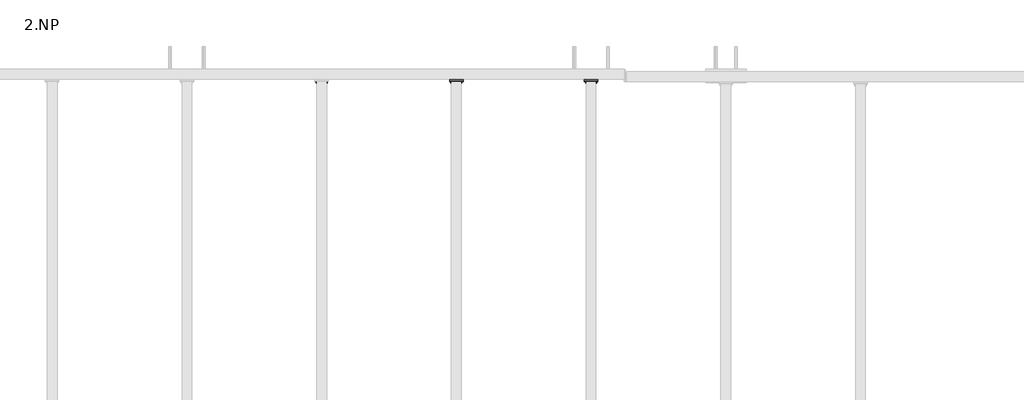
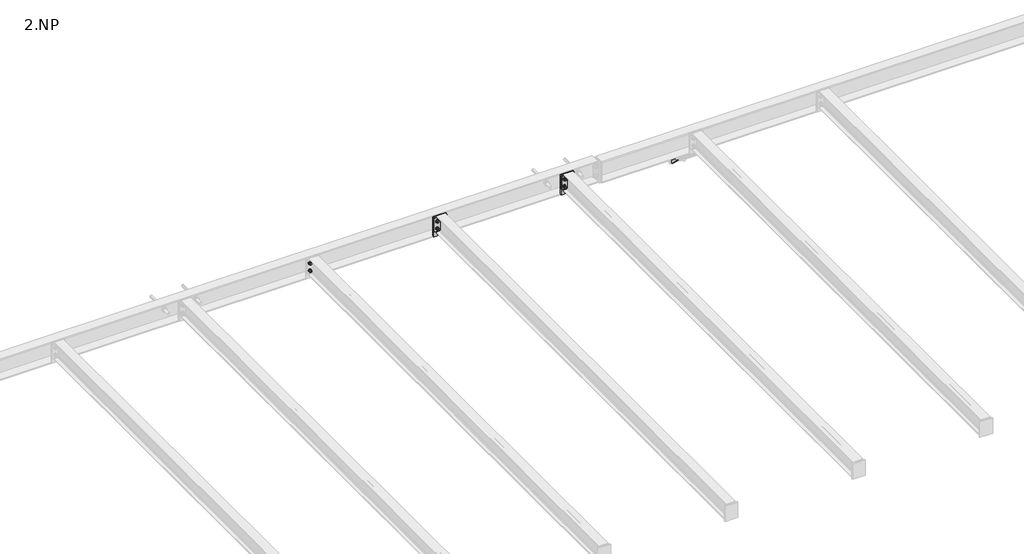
# One storey, part 13 of 18: 10 proxies.
"""IFC4 building model written with IfcOpenShell, lengths in millimetres."""

import ifcopenshell
import ifcopenshell.guid

model = None  # the IFC model being written
_history = None  # IfcOwnerHistory: only IFC2X3 demands one
_inside = {}  # id of a spatial element -> (the spatial element, [elements in it])
_under = {}  # id of a project, library or spatial element -> (it, [spatial elements below it])
_declared = {}  # id of a project -> (the project, [libraries it declares])
_typed = {}  # id of a type object -> (the type object, [elements of that type])
_made_of = {}  # id of a material, layer set ... -> (it, [elements and type objects made of it])


def new_model(schema):
    """Start an empty IFC model of exactly this schema.

    Asked for "IFC4X3", IfcOpenShell would pick the latest addendum, in which some entities
    have other attributes; the version numbers below select the first issue.
    IFC2X3 requires an IfcOwnerHistory on every rooted entity: one is made here for all.
    """
    global model, _history
    if schema == "IFC4X3":
        model = ifcopenshell.file(schema_version=(4, 3, 0, 0))
    else:
        model = ifcopenshell.file(schema=schema)
    _inside.clear()
    _under.clear()
    _declared.clear()
    _typed.clear()
    _made_of.clear()
    _history = None
    if model.schema == "IFC2X3":
        org = make("IfcOrganization", Name="unknown")
        user = make(
            "IfcPersonAndOrganization",
            ThePerson=make("IfcPerson", FamilyName="unknown"),
            TheOrganization=org,
        )
        app = make(
            "IfcApplication",
            ApplicationDeveloper=org,
            Version="unknown",
            ApplicationFullName="unknown",
            ApplicationIdentifier="unknown",
        )
        _history = make(
            "IfcOwnerHistory",
            OwningUser=user,
            OwningApplication=app,
            ChangeAction="ADDED",
            CreationDate=0,
        )
    return model


def make(cls, **values):
    """One entity of the class cls with the attributes given. An attribute that is None is left unset."""
    return model.create_entity(
        cls, **{name: value for name, value in values.items() if value is not None}
    )


def rooted(cls, **values):
    """An entity with a GlobalId (a new one), such as an element, a storey or a relation."""
    return make(cls, GlobalId=ifcopenshell.guid.new(), OwnerHistory=_history, **values)


def si_unit(unit_type, name, prefix=None):
    """IfcSIUnit, for example si_unit("LENGTHUNIT", "METRE", prefix="MILLI")."""
    return make("IfcSIUnit", UnitType=unit_type, Prefix=prefix, Name=name)


def assignment(units):
    """IfcUnitAssignment: the units of a project."""
    return None if units is None else make("IfcUnitAssignment", Units=units)


def point(xyz):
    """IfcCartesianPoint."""
    return None if xyz is None else make("IfcCartesianPoint", Coordinates=xyz)


def direction(xyz):
    """IfcDirection."""
    return None if xyz is None else make("IfcDirection", DirectionRatios=xyz)


def frame(location, z_axis=None, x_axis=None):
    """IfcAxis2Placement3D, a coordinate frame: its origin and axes. An axis left out is left unset."""
    return make(
        "IfcAxis2Placement3D",
        Location=point(location),
        Axis=direction(z_axis),
        RefDirection=direction(x_axis),
    )


def frame_2d(location, x_axis=None):
    """IfcAxis2Placement2D, a coordinate frame in the plane: its origin and x axis."""
    return make(
        "IfcAxis2Placement2D", Location=point(location), RefDirection=direction(x_axis)
    )


def origin():
    """The frame at (0, 0, 0) with its axes left unset."""
    return frame((0.0, 0.0, 0.0))


def place(relative_to, where):
    """IfcLocalPlacement: puts the frame where relative to a parent placement (None: the world)."""
    return make(
        "IfcLocalPlacement", PlacementRelTo=relative_to, RelativePlacement=where
    )


def context(
    kind, dimensions, precision=None, world=None, true_north=None, identifier=None
):
    """IfcGeometricRepresentationContext, for example the 3D "Model" context."""
    return make(
        "IfcGeometricRepresentationContext",
        ContextIdentifier=identifier,
        ContextType=kind,
        CoordinateSpaceDimension=dimensions,
        Precision=precision,
        WorldCoordinateSystem=world,
        TrueNorth=true_north,
    )


def project(units=None, contexts=None):
    """IfcProject with its units and contexts."""
    return rooted(
        "IfcProject",
        Name="project",
        RepresentationContexts=contexts,
        UnitsInContext=assignment(units),
    )


def spatial(cls, under=None, at=None, **own):
    """A site, building, storey or space (cls), placed at a placement, below another one or the project."""
    s = rooted(cls, ObjectPlacement=at, **own)
    if under is not None:
        _under.setdefault(under.id(), (under, []))[1].append(s)
    return s


def polyline(points):
    """IfcPolyline through the points."""
    return make("IfcPolyline", Points=[point(p) for p in points])


def circle_curve(where, radius):
    """IfcCircle in the frame where."""
    return make("IfcCircle", Position=where, Radius=radius)


def trimmed(basis, trim1, trim2, sense, master):
    """IfcTrimmedCurve: the piece of a basis curve between two trims."""
    return make(
        "IfcTrimmedCurve",
        BasisCurve=basis,
        Trim1=trim1,
        Trim2=trim2,
        SenseAgreement=sense,
        MasterRepresentation=master,
    )


def segment(curve, same_sense, transition):
    """IfcCompositeCurveSegment."""
    return make(
        "IfcCompositeCurveSegment",
        Transition=transition,
        SameSense=same_sense,
        ParentCurve=curve,
    )


def composite_curve(segments, self_intersect=None):
    """IfcCompositeCurve: segments joined end to end."""
    return make("IfcCompositeCurve", Segments=segments, SelfIntersect=self_intersect)


def outline(outer, holes=None, kind="AREA"):
    """IfcArbitraryClosedProfileDef: a profile drawn as a closed curve; with holes, ...WithVoids."""
    if holes is None:
        return make("IfcArbitraryClosedProfileDef", ProfileType=kind, OuterCurve=outer)
    return make(
        "IfcArbitraryProfileDefWithVoids",
        ProfileType=kind,
        OuterCurve=outer,
        InnerCurves=holes,
    )


def extrude(swept, where, along, depth):
    """IfcExtrudedAreaSolid: the profile swept, set in the frame where, extruded along a direction by depth."""
    return make(
        "IfcExtrudedAreaSolid",
        SweptArea=swept,
        Position=where,
        ExtrudedDirection=direction(along),
        Depth=depth,
    )


def shape(context_of_items, identifier, shape_type, items):
    """IfcShapeRepresentation: the items that make up one representation, for example the "Body"."""
    return make(
        "IfcShapeRepresentation",
        ContextOfItems=context_of_items,
        RepresentationIdentifier=identifier,
        RepresentationType=shape_type,
        Items=items,
    )


def made_of(thing, what):
    """Note that an element or type object is made of a material, layer set ...; save() writes the relation."""
    if what is not None:
        _made_of.setdefault(what.id(), (what, []))[1].append(thing)
    return thing


def element(
    cls,
    number,
    at=None,
    inside=None,
    cuts=None,
    type_object=None,
    material=None,
    context=None,
    identifier="Body",
    shape_type=None,
    held_by="IfcProductDefinitionShape",
    body=None,
    shapes=None,
    **own,
):
    """One element of the class cls, such as IfcWall. Its Tag is "e" and its number.

    at: its placement. inside: the storey or other place that contains it. cuts: it is an
    opening in that element (IfcRelVoidsElement). A single representation is given by context,
    identifier, shape_type and body (its items); several are given by shapes. held_by: the class
    of the entity that holds the representations. save() writes the other relations.
    """
    e = rooted(cls, Tag="e%d" % number, ObjectPlacement=at, **own)
    if body is not None:
        shapes = [shape(context, identifier, shape_type, body)]
    if shapes is not None:
        e.Representation = make(held_by, Representations=shapes)
    if inside is not None:
        _inside.setdefault(inside.id(), (inside, []))[1].append(e)
    if cuts is not None:
        rooted(
            "IfcRelVoidsElement", RelatingBuildingElement=cuts, RelatedOpeningElement=e
        )
    if type_object is not None:
        _typed.setdefault(type_object.id(), (type_object, []))[1].append(e)
    return made_of(e, material)


def aggregate(whole, parts):
    """IfcRelAggregates: a whole, such as a stair, and the parts it consists of."""
    return rooted("IfcRelAggregates", RelatingObject=whole, RelatedObjects=parts)


def save(model, path):
    """Write the relations noted so far, then the file.

    IfcRelAggregates (storeys below a building ...), IfcRelContainedInSpatialStructure (elements
    in a storey), IfcRelDefinesByType, IfcRelAssociatesMaterial and IfcRelDeclares: one each for
    every whole, place, type object, material and project.
    """
    for whole, parts in _under.values():
        aggregate(whole, parts)
    for where, things in _inside.values():
        rooted(
            "IfcRelContainedInSpatialStructure",
            RelatedElements=things,
            RelatingStructure=where,
        )
    for kind, things in _typed.values():
        rooted("IfcRelDefinesByType", RelatedObjects=things, RelatingType=kind)
    for what, things in _made_of.values():
        rooted("IfcRelAssociatesMaterial", RelatedObjects=things, RelatingMaterial=what)
    for by, libraries in _declared.values():
        rooted("IfcRelDeclares", RelatingContext=by, RelatedDefinitions=libraries)
    model.write(path)


model = new_model("IFC4")

# Units and contexts
model_context = context("Model", 3, world=origin())
ifc_project = project(units=[si_unit("LENGTHUNIT", "METRE", prefix="MILLI")], contexts=[model_context])

# Site, building, storey
site = spatial("IfcSite", under=ifc_project)
building = spatial("IfcBuilding", under=site)
storey = spatial("IfcBuildingStorey", under=building, Name="2.NP", Elevation=3000.0)

# Proxies
placement = place(None, origin())
element("IfcBuildingElementProxy", 1, Name="PLECH", ObjectType="PLECH", at=placement, inside=storey, context=model_context, shape_type="SweptSolid", body=[
    extrude(outline(polyline([(11000.0, 3775.0), (11100.0, 3775.0), (11100.0, 3767.0), (11000.0, 3767.0), (11000.0, 3775.0)])), frame((0.0, 0.0, 3175.0), z_axis=(0.0, 0.0, 1.0), x_axis=(1.0, 0.0, 0.0)), (0.0, 0.0, 1.0), 110.0),
])
element("IfcBuildingElementProxy", 2, Name="PLECH", ObjectType="PLECH", at=placement, inside=storey, context=model_context, shape_type="SweptSolid", body=[
    extrude(outline(polyline([(12000.0, 3775.0), (12100.0, 3775.0), (12100.0, 3767.0), (12000.0, 3767.0), (12000.0, 3775.0)])), frame((0.0, 0.0, 3175.0), z_axis=(0.0, 0.0, 1.0), x_axis=(1.0, 0.0, 0.0)), (0.0, 0.0, 1.0), 110.0),
])
element("IfcBuildingElementProxy", 3, Name="PLECH", ObjectType="PLECH", at=placement, inside=storey, context=model_context, shape_type="SweptSolid", body=[
    extrude(outline(composite_curve([segment(polyline([(3770.0, 3110.0), (3835.0, 3110.0)]), True, "CONTINUOUS"), segment(trimmed(circle_curve(frame_2d((3850.0, 3110.0)), 15.0), [point((3835.0, 3110.0))], [point((3850.0, 3095.0))], True, "CARTESIAN"), True, "CONTINUOUS"), segment(polyline([(3850.0, 3095.0), (3850.0, 3030.0), (3840.0, 3030.0), (3770.0, 3100.0), (3770.0, 3110.0)]), True, "CONTINUOUS")], self_intersect=False)), frame((12910.0, 0.0, 0.0), z_axis=(1.0, 0.0, 0.0), x_axis=(0.0, 1.0, 0.0)), (0.0, 0.0, 1.0), 8.0),
])
element("IfcBuildingElementProxy", 4, Name="PLECH", ObjectType="PLECH", at=placement, inside=storey, context=model_context, shape_type="SweptSolid", body=[
    extrude(outline(polyline([(11000.0, 3785.0), (11100.0, 3785.0), (11100.0, 3775.0), (11000.0, 3775.0), (11000.0, 3785.0)])), frame((0.0, 0.0, 3128.0), z_axis=(0.0, 0.0, 1.0), x_axis=(1.0, 0.0, 0.0)), (0.0, 0.0, 1.0), 164.0),
])
element("IfcBuildingElementProxy", 5, Name="PLECH", ObjectType="PLECH", at=placement, inside=storey, context=model_context, shape_type="SweptSolid", body=[
    extrude(outline(composite_curve([segment(polyline([(3785.0, 3289.5), (3834.5, 3289.5)]), True, "CONTINUOUS"), segment(trimmed(circle_curve(frame_2d((3854.5, 3289.5)), 20.0), [point((3834.5, 3289.5))], [point((3854.5, 3269.5))], True, "CARTESIAN"), True, "CONTINUOUS"), segment(polyline([(3854.5, 3269.5), (3854.5, 3150.5)]), True, "CONTINUOUS"), segment(trimmed(circle_curve(frame_2d((3854.5, 3130.5)), 20.0), [point((3854.5, 3150.5))], [point((3834.5, 3130.5))], True, "CARTESIAN"), True, "CONTINUOUS"), segment(polyline([(3834.5, 3130.5), (3785.0, 3130.5), (3785.0, 3289.5)]), True, "CONTINUOUS")], self_intersect=False)), frame((11047.0, 0.0, 0.0), z_axis=(1.0, 0.0, 0.0), x_axis=(0.0, 1.0, 0.0)), (0.0, 0.0, 1.0), 6.0),
])
element("IfcBuildingElementProxy", 6, Name="PLECH", ObjectType="PLECH", at=placement, inside=storey, context=model_context, shape_type="SweptSolid", body=[
    extrude(outline(polyline([(12000.0, 3785.0), (12100.0, 3785.0), (12100.0, 3775.0), (12000.0, 3775.0), (12000.0, 3785.0)])), frame((0.0, 0.0, 3128.0), z_axis=(0.0, 0.0, 1.0), x_axis=(1.0, 0.0, 0.0)), (0.0, 0.0, 1.0), 164.0),
])
element("IfcBuildingElementProxy", 7, Name="PLECH", ObjectType="PLECH", at=placement, inside=storey, context=model_context, shape_type="SweptSolid", body=[
    extrude(outline(composite_curve([segment(polyline([(3785.0, 3289.5), (3834.5, 3289.5)]), True, "CONTINUOUS"), segment(trimmed(circle_curve(frame_2d((3854.5, 3289.5)), 20.0), [point((3834.5, 3289.5))], [point((3854.5, 3269.5))], True, "CARTESIAN"), True, "CONTINUOUS"), segment(polyline([(3854.5, 3269.5), (3854.5, 3150.5)]), True, "CONTINUOUS"), segment(trimmed(circle_curve(frame_2d((3854.5, 3130.5)), 20.0), [point((3854.5, 3150.5))], [point((3834.5, 3130.5))], True, "CARTESIAN"), True, "CONTINUOUS"), segment(polyline([(3834.5, 3130.5), (3785.0, 3130.5), (3785.0, 3289.5)]), True, "CONTINUOUS")], self_intersect=False)), frame((12047.0, 0.0, 0.0), z_axis=(1.0, 0.0, 0.0), x_axis=(0.0, 1.0, 0.0)), (0.0, 0.0, 1.0), 6.0),
])
element("IfcBuildingElementProxy", 8, Name="Bolt assembly", ObjectType="Bolt assembly", at=placement, inside=storey, context=model_context, shape_type="SweptSolid", body=[
    extrude(outline(composite_curve([segment(trimmed(circle_curve(frame_2d((3260.0, 10020.0)), 6.5), [point((3260.0, 10026.5))], [point((3260.0, 10013.5))], False, "CARTESIAN"), True, "CONTINUOUS"), segment(trimmed(circle_curve(frame_2d((3260.0, 10020.0)), 6.5), [point((3260.0, 10013.5))], [point((3260.0, 10026.5))], False, "CARTESIAN"), True, "CONTINUOUS")], self_intersect=False)), frame((0.0, 3774.9, 0.0), z_axis=(0.0, 1.0, 0.0), x_axis=(0.0, 0.0, 1.0)), (0.0, 0.0, 1.0), 10.0),
    extrude(outline(polyline([(3260.0, 10030.9696551), (3269.5, 10025.4848276), (3269.5, 10014.5151724), (3260.0, 10009.0303449), (3250.5, 10014.5151724), (3250.5, 10025.4848276), (3260.0, 10030.9696551)])), frame((0.0, 3787.5, 0.0), z_axis=(0.0, 1.0, 0.0), x_axis=(0.0, 0.0, 1.0)), (0.0, 0.0, 1.0), 7.5),
    extrude(outline(composite_curve([segment(trimmed(circle_curve(frame_2d((3260.0, 10020.0)), 6.0), [point((3260.0, 10026.0))], [point((3260.0, 10014.0))], False, "CARTESIAN"), True, "CONTINUOUS"), segment(trimmed(circle_curve(frame_2d((3260.0, 10020.0)), 6.0), [point((3260.0, 10014.0))], [point((3260.0, 10026.0))], False, "CARTESIAN"), True, "CONTINUOUS")], self_intersect=False)), frame((0.0, 3747.5, 0.0), z_axis=(0.0, 1.0, 0.0), x_axis=(0.0, 0.0, 1.0)), (0.0, 0.0, 1.0), 40.0),
    extrude(outline(composite_curve([segment(trimmed(circle_curve(frame_2d((3260.0, 10020.0)), 12.0), [point((3260.0, 10032.0))], [point((3260.0, 10008.0))], False, "CARTESIAN"), True, "CONTINUOUS"), segment(trimmed(circle_curve(frame_2d((3260.0, 10020.0)), 12.0), [point((3260.0, 10008.0))], [point((3260.0, 10032.0))], False, "CARTESIAN"), True, "CONTINUOUS")], self_intersect=False)), frame((0.0, 3785.0, 0.0), z_axis=(0.0, 1.0, 0.0), x_axis=(0.0, 0.0, 1.0)), (0.0, 0.0, 1.0), 2.5),
    extrude(outline(composite_curve([segment(trimmed(circle_curve(frame_2d((3260.0, 10020.0)), 12.0), [point((3260.0, 10032.0))], [point((3260.0, 10008.0))], False, "CARTESIAN"), True, "CONTINUOUS"), segment(trimmed(circle_curve(frame_2d((3260.0, 10020.0)), 12.0), [point((3260.0, 10008.0))], [point((3260.0, 10032.0))], False, "CARTESIAN"), True, "CONTINUOUS")], self_intersect=False)), frame((0.0, 3764.5, 0.0), z_axis=(0.0, 1.0, 0.0), x_axis=(0.0, 0.0, 1.0)), (0.0, 0.0, 1.0), 2.5),
    extrude(outline(polyline([(3260.0, 10030.9696551), (3269.5, 10025.4848276), (3269.5, 10014.5151724), (3260.0, 10009.0303449), (3250.5, 10014.5151724), (3250.5, 10025.4848276), (3260.0, 10030.9696551)])), frame((0.0, 3754.5, 0.0), z_axis=(0.0, 1.0, 0.0), x_axis=(0.0, 0.0, 1.0)), (0.0, 0.0, 1.0), 10.0),
    extrude(outline(composite_curve([segment(trimmed(circle_curve(frame_2d((3260.0, 10020.0)), 6.5), [point((3260.0, 10026.5))], [point((3260.0, 10013.5))], False, "CARTESIAN"), True, "CONTINUOUS"), segment(trimmed(circle_curve(frame_2d((3260.0, 10020.0)), 6.5), [point((3260.0, 10013.5))], [point((3260.0, 10026.5))], False, "CARTESIAN"), True, "CONTINUOUS")], self_intersect=False)), frame((0.0, 3767.0, 0.0), z_axis=(0.0, 1.0, 0.0), x_axis=(0.0, 0.0, 1.0)), (0.0, 0.0, 1.0), 8.1),
    extrude(outline(composite_curve([segment(trimmed(circle_curve(frame_2d((3260.0, 10080.0)), 6.5), [point((3260.0, 10086.5))], [point((3260.0, 10073.5))], False, "CARTESIAN"), True, "CONTINUOUS"), segment(trimmed(circle_curve(frame_2d((3260.0, 10080.0)), 6.5), [point((3260.0, 10073.5))], [point((3260.0, 10086.5))], False, "CARTESIAN"), True, "CONTINUOUS")], self_intersect=False)), frame((0.0, 3774.9, 0.0), z_axis=(0.0, 1.0, 0.0), x_axis=(0.0, 0.0, 1.0)), (0.0, 0.0, 1.0), 10.0),
    extrude(outline(polyline([(3260.0, 10090.9696551), (3269.5, 10085.4848276), (3269.5, 10074.5151724), (3260.0, 10069.0303449), (3250.5, 10074.5151724), (3250.5, 10085.4848276), (3260.0, 10090.9696551)])), frame((0.0, 3787.5, 0.0), z_axis=(0.0, 1.0, 0.0), x_axis=(0.0, 0.0, 1.0)), (0.0, 0.0, 1.0), 7.5),
    extrude(outline(composite_curve([segment(trimmed(circle_curve(frame_2d((3260.0, 10080.0)), 6.0), [point((3260.0, 10086.0))], [point((3260.0, 10074.0))], False, "CARTESIAN"), True, "CONTINUOUS"), segment(trimmed(circle_curve(frame_2d((3260.0, 10080.0)), 6.0), [point((3260.0, 10074.0))], [point((3260.0, 10086.0))], False, "CARTESIAN"), True, "CONTINUOUS")], self_intersect=False)), frame((0.0, 3747.5, 0.0), z_axis=(0.0, 1.0, 0.0), x_axis=(0.0, 0.0, 1.0)), (0.0, 0.0, 1.0), 40.0),
    extrude(outline(composite_curve([segment(trimmed(circle_curve(frame_2d((3260.0, 10080.0)), 12.0), [point((3260.0, 10092.0))], [point((3260.0, 10068.0))], False, "CARTESIAN"), True, "CONTINUOUS"), segment(trimmed(circle_curve(frame_2d((3260.0, 10080.0)), 12.0), [point((3260.0, 10068.0))], [point((3260.0, 10092.0))], False, "CARTESIAN"), True, "CONTINUOUS")], self_intersect=False)), frame((0.0, 3785.0, 0.0), z_axis=(0.0, 1.0, 0.0), x_axis=(0.0, 0.0, 1.0)), (0.0, 0.0, 1.0), 2.5),
    extrude(outline(composite_curve([segment(trimmed(circle_curve(frame_2d((3260.0, 10080.0)), 12.0), [point((3260.0, 10092.0))], [point((3260.0, 10068.0))], False, "CARTESIAN"), True, "CONTINUOUS"), segment(trimmed(circle_curve(frame_2d((3260.0, 10080.0)), 12.0), [point((3260.0, 10068.0))], [point((3260.0, 10092.0))], False, "CARTESIAN"), True, "CONTINUOUS")], self_intersect=False)), frame((0.0, 3764.5, 0.0), z_axis=(0.0, 1.0, 0.0), x_axis=(0.0, 0.0, 1.0)), (0.0, 0.0, 1.0), 2.5),
    extrude(outline(polyline([(3260.0, 10090.9696551), (3269.5, 10085.4848276), (3269.5, 10074.5151724), (3260.0, 10069.0303449), (3250.5, 10074.5151724), (3250.5, 10085.4848276), (3260.0, 10090.9696551)])), frame((0.0, 3754.5, 0.0), z_axis=(0.0, 1.0, 0.0), x_axis=(0.0, 0.0, 1.0)), (0.0, 0.0, 1.0), 10.0),
    extrude(outline(composite_curve([segment(trimmed(circle_curve(frame_2d((3260.0, 10080.0)), 6.5), [point((3260.0, 10086.5))], [point((3260.0, 10073.5))], False, "CARTESIAN"), True, "CONTINUOUS"), segment(trimmed(circle_curve(frame_2d((3260.0, 10080.0)), 6.5), [point((3260.0, 10073.5))], [point((3260.0, 10086.5))], False, "CARTESIAN"), True, "CONTINUOUS")], self_intersect=False)), frame((0.0, 3767.0, 0.0), z_axis=(0.0, 1.0, 0.0), x_axis=(0.0, 0.0, 1.0)), (0.0, 0.0, 1.0), 8.1),
    extrude(outline(composite_curve([segment(trimmed(circle_curve(frame_2d((3200.0, 10020.0)), 6.5), [point((3200.0, 10026.5))], [point((3200.0, 10013.5))], False, "CARTESIAN"), True, "CONTINUOUS"), segment(trimmed(circle_curve(frame_2d((3200.0, 10020.0)), 6.5), [point((3200.0, 10013.5))], [point((3200.0, 10026.5))], False, "CARTESIAN"), True, "CONTINUOUS")], self_intersect=False)), frame((0.0, 3774.9, 0.0), z_axis=(0.0, 1.0, 0.0), x_axis=(0.0, 0.0, 1.0)), (0.0, 0.0, 1.0), 10.0),
    extrude(outline(polyline([(3200.0, 10030.9696551), (3209.5, 10025.4848276), (3209.5, 10014.5151724), (3200.0, 10009.0303449), (3190.5, 10014.5151724), (3190.5, 10025.4848276), (3200.0, 10030.9696551)])), frame((0.0, 3787.5, 0.0), z_axis=(0.0, 1.0, 0.0), x_axis=(0.0, 0.0, 1.0)), (0.0, 0.0, 1.0), 7.5),
    extrude(outline(composite_curve([segment(trimmed(circle_curve(frame_2d((3200.0, 10020.0)), 6.0), [point((3200.0, 10026.0))], [point((3200.0, 10014.0))], False, "CARTESIAN"), True, "CONTINUOUS"), segment(trimmed(circle_curve(frame_2d((3200.0, 10020.0)), 6.0), [point((3200.0, 10014.0))], [point((3200.0, 10026.0))], False, "CARTESIAN"), True, "CONTINUOUS")], self_intersect=False)), frame((0.0, 3747.5, 0.0), z_axis=(0.0, 1.0, 0.0), x_axis=(0.0, 0.0, 1.0)), (0.0, 0.0, 1.0), 40.0),
    extrude(outline(composite_curve([segment(trimmed(circle_curve(frame_2d((3200.0, 10020.0)), 12.0), [point((3200.0, 10032.0))], [point((3200.0, 10008.0))], False, "CARTESIAN"), True, "CONTINUOUS"), segment(trimmed(circle_curve(frame_2d((3200.0, 10020.0)), 12.0), [point((3200.0, 10008.0))], [point((3200.0, 10032.0))], False, "CARTESIAN"), True, "CONTINUOUS")], self_intersect=False)), frame((0.0, 3785.0, 0.0), z_axis=(0.0, 1.0, 0.0), x_axis=(0.0, 0.0, 1.0)), (0.0, 0.0, 1.0), 2.5),
    extrude(outline(composite_curve([segment(trimmed(circle_curve(frame_2d((3200.0, 10020.0)), 12.0), [point((3200.0, 10032.0))], [point((3200.0, 10008.0))], False, "CARTESIAN"), True, "CONTINUOUS"), segment(trimmed(circle_curve(frame_2d((3200.0, 10020.0)), 12.0), [point((3200.0, 10008.0))], [point((3200.0, 10032.0))], False, "CARTESIAN"), True, "CONTINUOUS")], self_intersect=False)), frame((0.0, 3764.5, 0.0), z_axis=(0.0, 1.0, 0.0), x_axis=(0.0, 0.0, 1.0)), (0.0, 0.0, 1.0), 2.5),
    extrude(outline(polyline([(3200.0, 10030.9696551), (3209.5, 10025.4848276), (3209.5, 10014.5151724), (3200.0, 10009.0303449), (3190.5, 10014.5151724), (3190.5, 10025.4848276), (3200.0, 10030.9696551)])), frame((0.0, 3754.5, 0.0), z_axis=(0.0, 1.0, 0.0), x_axis=(0.0, 0.0, 1.0)), (0.0, 0.0, 1.0), 10.0),
    extrude(outline(composite_curve([segment(trimmed(circle_curve(frame_2d((3200.0, 10020.0)), 6.5), [point((3200.0, 10026.5))], [point((3200.0, 10013.5))], False, "CARTESIAN"), True, "CONTINUOUS"), segment(trimmed(circle_curve(frame_2d((3200.0, 10020.0)), 6.5), [point((3200.0, 10013.5))], [point((3200.0, 10026.5))], False, "CARTESIAN"), True, "CONTINUOUS")], self_intersect=False)), frame((0.0, 3767.0, 0.0), z_axis=(0.0, 1.0, 0.0), x_axis=(0.0, 0.0, 1.0)), (0.0, 0.0, 1.0), 8.1),
    extrude(outline(composite_curve([segment(trimmed(circle_curve(frame_2d((3200.0, 10080.0)), 6.5), [point((3200.0, 10086.5))], [point((3200.0, 10073.5))], False, "CARTESIAN"), True, "CONTINUOUS"), segment(trimmed(circle_curve(frame_2d((3200.0, 10080.0)), 6.5), [point((3200.0, 10073.5))], [point((3200.0, 10086.5))], False, "CARTESIAN"), True, "CONTINUOUS")], self_intersect=False)), frame((0.0, 3774.9, 0.0), z_axis=(0.0, 1.0, 0.0), x_axis=(0.0, 0.0, 1.0)), (0.0, 0.0, 1.0), 10.0),
    extrude(outline(polyline([(3200.0, 10090.9696551), (3209.5, 10085.4848276), (3209.5, 10074.5151724), (3200.0, 10069.0303449), (3190.5, 10074.5151724), (3190.5, 10085.4848276), (3200.0, 10090.9696551)])), frame((0.0, 3787.5, 0.0), z_axis=(0.0, 1.0, 0.0), x_axis=(0.0, 0.0, 1.0)), (0.0, 0.0, 1.0), 7.5),
    extrude(outline(composite_curve([segment(trimmed(circle_curve(frame_2d((3200.0, 10080.0)), 6.0), [point((3200.0, 10086.0))], [point((3200.0, 10074.0))], False, "CARTESIAN"), True, "CONTINUOUS"), segment(trimmed(circle_curve(frame_2d((3200.0, 10080.0)), 6.0), [point((3200.0, 10074.0))], [point((3200.0, 10086.0))], False, "CARTESIAN"), True, "CONTINUOUS")], self_intersect=False)), frame((0.0, 3747.5, 0.0), z_axis=(0.0, 1.0, 0.0), x_axis=(0.0, 0.0, 1.0)), (0.0, 0.0, 1.0), 40.0),
    extrude(outline(composite_curve([segment(trimmed(circle_curve(frame_2d((3200.0, 10080.0)), 12.0), [point((3200.0, 10092.0))], [point((3200.0, 10068.0))], False, "CARTESIAN"), True, "CONTINUOUS"), segment(trimmed(circle_curve(frame_2d((3200.0, 10080.0)), 12.0), [point((3200.0, 10068.0))], [point((3200.0, 10092.0))], False, "CARTESIAN"), True, "CONTINUOUS")], self_intersect=False)), frame((0.0, 3785.0, 0.0), z_axis=(0.0, 1.0, 0.0), x_axis=(0.0, 0.0, 1.0)), (0.0, 0.0, 1.0), 2.5),
    extrude(outline(composite_curve([segment(trimmed(circle_curve(frame_2d((3200.0, 10080.0)), 12.0), [point((3200.0, 10092.0))], [point((3200.0, 10068.0))], False, "CARTESIAN"), True, "CONTINUOUS"), segment(trimmed(circle_curve(frame_2d((3200.0, 10080.0)), 12.0), [point((3200.0, 10068.0))], [point((3200.0, 10092.0))], False, "CARTESIAN"), True, "CONTINUOUS")], self_intersect=False)), frame((0.0, 3764.5, 0.0), z_axis=(0.0, 1.0, 0.0), x_axis=(0.0, 0.0, 1.0)), (0.0, 0.0, 1.0), 2.5),
    extrude(outline(polyline([(3200.0, 10090.9696551), (3209.5, 10085.4848276), (3209.5, 10074.5151724), (3200.0, 10069.0303449), (3190.5, 10074.5151724), (3190.5, 10085.4848276), (3200.0, 10090.9696551)])), frame((0.0, 3754.5, 0.0), z_axis=(0.0, 1.0, 0.0), x_axis=(0.0, 0.0, 1.0)), (0.0, 0.0, 1.0), 10.0),
    extrude(outline(composite_curve([segment(trimmed(circle_curve(frame_2d((3200.0, 10080.0)), 6.5), [point((3200.0, 10086.5))], [point((3200.0, 10073.5))], False, "CARTESIAN"), True, "CONTINUOUS"), segment(trimmed(circle_curve(frame_2d((3200.0, 10080.0)), 6.5), [point((3200.0, 10073.5))], [point((3200.0, 10086.5))], False, "CARTESIAN"), True, "CONTINUOUS")], self_intersect=False)), frame((0.0, 3767.0, 0.0), z_axis=(0.0, 1.0, 0.0), x_axis=(0.0, 0.0, 1.0)), (0.0, 0.0, 1.0), 8.1),
])
element("IfcBuildingElementProxy", 9, Name="Bolt assembly", ObjectType="Bolt assembly", at=placement, inside=storey, context=model_context, shape_type="SweptSolid", body=[
    extrude(outline(composite_curve([segment(trimmed(circle_curve(frame_2d((3260.0, 11020.0)), 6.5), [point((3260.0, 11026.5))], [point((3260.0, 11013.5))], False, "CARTESIAN"), True, "CONTINUOUS"), segment(trimmed(circle_curve(frame_2d((3260.0, 11020.0)), 6.5), [point((3260.0, 11013.5))], [point((3260.0, 11026.5))], False, "CARTESIAN"), True, "CONTINUOUS")], self_intersect=False)), frame((0.0, 3774.9, 0.0), z_axis=(0.0, 1.0, 0.0), x_axis=(0.0, 0.0, 1.0)), (0.0, 0.0, 1.0), 10.0),
    extrude(outline(polyline([(3260.0, 11030.9696551), (3269.5, 11025.4848276), (3269.5, 11014.5151724), (3260.0, 11009.0303449), (3250.5, 11014.5151724), (3250.5, 11025.4848276), (3260.0, 11030.9696551)])), frame((0.0, 3787.5, 0.0), z_axis=(0.0, 1.0, 0.0), x_axis=(0.0, 0.0, 1.0)), (0.0, 0.0, 1.0), 7.5),
    extrude(outline(composite_curve([segment(trimmed(circle_curve(frame_2d((3260.0, 11020.0)), 6.0), [point((3260.0, 11026.0))], [point((3260.0, 11014.0))], False, "CARTESIAN"), True, "CONTINUOUS"), segment(trimmed(circle_curve(frame_2d((3260.0, 11020.0)), 6.0), [point((3260.0, 11014.0))], [point((3260.0, 11026.0))], False, "CARTESIAN"), True, "CONTINUOUS")], self_intersect=False)), frame((0.0, 3747.5, 0.0), z_axis=(0.0, 1.0, 0.0), x_axis=(0.0, 0.0, 1.0)), (0.0, 0.0, 1.0), 40.0),
    extrude(outline(composite_curve([segment(trimmed(circle_curve(frame_2d((3260.0, 11020.0)), 12.0), [point((3260.0, 11032.0))], [point((3260.0, 11008.0))], False, "CARTESIAN"), True, "CONTINUOUS"), segment(trimmed(circle_curve(frame_2d((3260.0, 11020.0)), 12.0), [point((3260.0, 11008.0))], [point((3260.0, 11032.0))], False, "CARTESIAN"), True, "CONTINUOUS")], self_intersect=False)), frame((0.0, 3785.0, 0.0), z_axis=(0.0, 1.0, 0.0), x_axis=(0.0, 0.0, 1.0)), (0.0, 0.0, 1.0), 2.5),
    extrude(outline(composite_curve([segment(trimmed(circle_curve(frame_2d((3260.0, 11020.0)), 12.0), [point((3260.0, 11032.0))], [point((3260.0, 11008.0))], False, "CARTESIAN"), True, "CONTINUOUS"), segment(trimmed(circle_curve(frame_2d((3260.0, 11020.0)), 12.0), [point((3260.0, 11008.0))], [point((3260.0, 11032.0))], False, "CARTESIAN"), True, "CONTINUOUS")], self_intersect=False)), frame((0.0, 3764.5, 0.0), z_axis=(0.0, 1.0, 0.0), x_axis=(0.0, 0.0, 1.0)), (0.0, 0.0, 1.0), 2.5),
    extrude(outline(polyline([(3260.0, 11030.9696551), (3269.5, 11025.4848276), (3269.5, 11014.5151724), (3260.0, 11009.0303449), (3250.5, 11014.5151724), (3250.5, 11025.4848276), (3260.0, 11030.9696551)])), frame((0.0, 3754.5, 0.0), z_axis=(0.0, 1.0, 0.0), x_axis=(0.0, 0.0, 1.0)), (0.0, 0.0, 1.0), 10.0),
    extrude(outline(composite_curve([segment(trimmed(circle_curve(frame_2d((3260.0, 11020.0)), 6.5), [point((3260.0, 11026.5))], [point((3260.0, 11013.5))], False, "CARTESIAN"), True, "CONTINUOUS"), segment(trimmed(circle_curve(frame_2d((3260.0, 11020.0)), 6.5), [point((3260.0, 11013.5))], [point((3260.0, 11026.5))], False, "CARTESIAN"), True, "CONTINUOUS")], self_intersect=False)), frame((0.0, 3767.0, 0.0), z_axis=(0.0, 1.0, 0.0), x_axis=(0.0, 0.0, 1.0)), (0.0, 0.0, 1.0), 8.1),
    extrude(outline(composite_curve([segment(trimmed(circle_curve(frame_2d((3260.0, 11080.0)), 6.5), [point((3260.0, 11086.5))], [point((3260.0, 11073.5))], False, "CARTESIAN"), True, "CONTINUOUS"), segment(trimmed(circle_curve(frame_2d((3260.0, 11080.0)), 6.5), [point((3260.0, 11073.5))], [point((3260.0, 11086.5))], False, "CARTESIAN"), True, "CONTINUOUS")], self_intersect=False)), frame((0.0, 3774.9, 0.0), z_axis=(0.0, 1.0, 0.0), x_axis=(0.0, 0.0, 1.0)), (0.0, 0.0, 1.0), 10.0),
    extrude(outline(polyline([(3260.0, 11090.9696551), (3269.5, 11085.4848276), (3269.5, 11074.5151724), (3260.0, 11069.0303449), (3250.5, 11074.5151724), (3250.5, 11085.4848276), (3260.0, 11090.9696551)])), frame((0.0, 3787.5, 0.0), z_axis=(0.0, 1.0, 0.0), x_axis=(0.0, 0.0, 1.0)), (0.0, 0.0, 1.0), 7.5),
    extrude(outline(composite_curve([segment(trimmed(circle_curve(frame_2d((3260.0, 11080.0)), 6.0), [point((3260.0, 11086.0))], [point((3260.0, 11074.0))], False, "CARTESIAN"), True, "CONTINUOUS"), segment(trimmed(circle_curve(frame_2d((3260.0, 11080.0)), 6.0), [point((3260.0, 11074.0))], [point((3260.0, 11086.0))], False, "CARTESIAN"), True, "CONTINUOUS")], self_intersect=False)), frame((0.0, 3747.5, 0.0), z_axis=(0.0, 1.0, 0.0), x_axis=(0.0, 0.0, 1.0)), (0.0, 0.0, 1.0), 40.0),
    extrude(outline(composite_curve([segment(trimmed(circle_curve(frame_2d((3260.0, 11080.0)), 12.0), [point((3260.0, 11092.0))], [point((3260.0, 11068.0))], False, "CARTESIAN"), True, "CONTINUOUS"), segment(trimmed(circle_curve(frame_2d((3260.0, 11080.0)), 12.0), [point((3260.0, 11068.0))], [point((3260.0, 11092.0))], False, "CARTESIAN"), True, "CONTINUOUS")], self_intersect=False)), frame((0.0, 3785.0, 0.0), z_axis=(0.0, 1.0, 0.0), x_axis=(0.0, 0.0, 1.0)), (0.0, 0.0, 1.0), 2.5),
    extrude(outline(composite_curve([segment(trimmed(circle_curve(frame_2d((3260.0, 11080.0)), 12.0), [point((3260.0, 11092.0))], [point((3260.0, 11068.0))], False, "CARTESIAN"), True, "CONTINUOUS"), segment(trimmed(circle_curve(frame_2d((3260.0, 11080.0)), 12.0), [point((3260.0, 11068.0))], [point((3260.0, 11092.0))], False, "CARTESIAN"), True, "CONTINUOUS")], self_intersect=False)), frame((0.0, 3764.5, 0.0), z_axis=(0.0, 1.0, 0.0), x_axis=(0.0, 0.0, 1.0)), (0.0, 0.0, 1.0), 2.5),
    extrude(outline(polyline([(3260.0, 11090.9696551), (3269.5, 11085.4848276), (3269.5, 11074.5151724), (3260.0, 11069.0303449), (3250.5, 11074.5151724), (3250.5, 11085.4848276), (3260.0, 11090.9696551)])), frame((0.0, 3754.5, 0.0), z_axis=(0.0, 1.0, 0.0), x_axis=(0.0, 0.0, 1.0)), (0.0, 0.0, 1.0), 10.0),
    extrude(outline(composite_curve([segment(trimmed(circle_curve(frame_2d((3260.0, 11080.0)), 6.5), [point((3260.0, 11086.5))], [point((3260.0, 11073.5))], False, "CARTESIAN"), True, "CONTINUOUS"), segment(trimmed(circle_curve(frame_2d((3260.0, 11080.0)), 6.5), [point((3260.0, 11073.5))], [point((3260.0, 11086.5))], False, "CARTESIAN"), True, "CONTINUOUS")], self_intersect=False)), frame((0.0, 3767.0, 0.0), z_axis=(0.0, 1.0, 0.0), x_axis=(0.0, 0.0, 1.0)), (0.0, 0.0, 1.0), 8.1),
    extrude(outline(composite_curve([segment(trimmed(circle_curve(frame_2d((3200.0, 11020.0)), 6.5), [point((3200.0, 11026.5))], [point((3200.0, 11013.5))], False, "CARTESIAN"), True, "CONTINUOUS"), segment(trimmed(circle_curve(frame_2d((3200.0, 11020.0)), 6.5), [point((3200.0, 11013.5))], [point((3200.0, 11026.5))], False, "CARTESIAN"), True, "CONTINUOUS")], self_intersect=False)), frame((0.0, 3774.9, 0.0), z_axis=(0.0, 1.0, 0.0), x_axis=(0.0, 0.0, 1.0)), (0.0, 0.0, 1.0), 10.0),
    extrude(outline(polyline([(3200.0, 11030.9696551), (3209.5, 11025.4848276), (3209.5, 11014.5151724), (3200.0, 11009.0303449), (3190.5, 11014.5151724), (3190.5, 11025.4848276), (3200.0, 11030.9696551)])), frame((0.0, 3787.5, 0.0), z_axis=(0.0, 1.0, 0.0), x_axis=(0.0, 0.0, 1.0)), (0.0, 0.0, 1.0), 7.5),
    extrude(outline(composite_curve([segment(trimmed(circle_curve(frame_2d((3200.0, 11020.0)), 6.0), [point((3200.0, 11026.0))], [point((3200.0, 11014.0))], False, "CARTESIAN"), True, "CONTINUOUS"), segment(trimmed(circle_curve(frame_2d((3200.0, 11020.0)), 6.0), [point((3200.0, 11014.0))], [point((3200.0, 11026.0))], False, "CARTESIAN"), True, "CONTINUOUS")], self_intersect=False)), frame((0.0, 3747.5, 0.0), z_axis=(0.0, 1.0, 0.0), x_axis=(0.0, 0.0, 1.0)), (0.0, 0.0, 1.0), 40.0),
    extrude(outline(composite_curve([segment(trimmed(circle_curve(frame_2d((3200.0, 11020.0)), 12.0), [point((3200.0, 11032.0))], [point((3200.0, 11008.0))], False, "CARTESIAN"), True, "CONTINUOUS"), segment(trimmed(circle_curve(frame_2d((3200.0, 11020.0)), 12.0), [point((3200.0, 11008.0))], [point((3200.0, 11032.0))], False, "CARTESIAN"), True, "CONTINUOUS")], self_intersect=False)), frame((0.0, 3785.0, 0.0), z_axis=(0.0, 1.0, 0.0), x_axis=(0.0, 0.0, 1.0)), (0.0, 0.0, 1.0), 2.5),
    extrude(outline(composite_curve([segment(trimmed(circle_curve(frame_2d((3200.0, 11020.0)), 12.0), [point((3200.0, 11032.0))], [point((3200.0, 11008.0))], False, "CARTESIAN"), True, "CONTINUOUS"), segment(trimmed(circle_curve(frame_2d((3200.0, 11020.0)), 12.0), [point((3200.0, 11008.0))], [point((3200.0, 11032.0))], False, "CARTESIAN"), True, "CONTINUOUS")], self_intersect=False)), frame((0.0, 3764.5, 0.0), z_axis=(0.0, 1.0, 0.0), x_axis=(0.0, 0.0, 1.0)), (0.0, 0.0, 1.0), 2.5),
    extrude(outline(polyline([(3200.0, 11030.9696551), (3209.5, 11025.4848276), (3209.5, 11014.5151724), (3200.0, 11009.0303449), (3190.5, 11014.5151724), (3190.5, 11025.4848276), (3200.0, 11030.9696551)])), frame((0.0, 3754.5, 0.0), z_axis=(0.0, 1.0, 0.0), x_axis=(0.0, 0.0, 1.0)), (0.0, 0.0, 1.0), 10.0),
    extrude(outline(composite_curve([segment(trimmed(circle_curve(frame_2d((3200.0, 11020.0)), 6.5), [point((3200.0, 11026.5))], [point((3200.0, 11013.5))], False, "CARTESIAN"), True, "CONTINUOUS"), segment(trimmed(circle_curve(frame_2d((3200.0, 11020.0)), 6.5), [point((3200.0, 11013.5))], [point((3200.0, 11026.5))], False, "CARTESIAN"), True, "CONTINUOUS")], self_intersect=False)), frame((0.0, 3767.0, 0.0), z_axis=(0.0, 1.0, 0.0), x_axis=(0.0, 0.0, 1.0)), (0.0, 0.0, 1.0), 8.1),
    extrude(outline(composite_curve([segment(trimmed(circle_curve(frame_2d((3200.0, 11080.0)), 6.5), [point((3200.0, 11086.5))], [point((3200.0, 11073.5))], False, "CARTESIAN"), True, "CONTINUOUS"), segment(trimmed(circle_curve(frame_2d((3200.0, 11080.0)), 6.5), [point((3200.0, 11073.5))], [point((3200.0, 11086.5))], False, "CARTESIAN"), True, "CONTINUOUS")], self_intersect=False)), frame((0.0, 3774.9, 0.0), z_axis=(0.0, 1.0, 0.0), x_axis=(0.0, 0.0, 1.0)), (0.0, 0.0, 1.0), 10.0),
    extrude(outline(polyline([(3200.0, 11090.9696551), (3209.5, 11085.4848276), (3209.5, 11074.5151724), (3200.0, 11069.0303449), (3190.5, 11074.5151724), (3190.5, 11085.4848276), (3200.0, 11090.9696551)])), frame((0.0, 3787.5, 0.0), z_axis=(0.0, 1.0, 0.0), x_axis=(0.0, 0.0, 1.0)), (0.0, 0.0, 1.0), 7.5),
    extrude(outline(composite_curve([segment(trimmed(circle_curve(frame_2d((3200.0, 11080.0)), 6.0), [point((3200.0, 11086.0))], [point((3200.0, 11074.0))], False, "CARTESIAN"), True, "CONTINUOUS"), segment(trimmed(circle_curve(frame_2d((3200.0, 11080.0)), 6.0), [point((3200.0, 11074.0))], [point((3200.0, 11086.0))], False, "CARTESIAN"), True, "CONTINUOUS")], self_intersect=False)), frame((0.0, 3747.5, 0.0), z_axis=(0.0, 1.0, 0.0), x_axis=(0.0, 0.0, 1.0)), (0.0, 0.0, 1.0), 40.0),
    extrude(outline(composite_curve([segment(trimmed(circle_curve(frame_2d((3200.0, 11080.0)), 12.0), [point((3200.0, 11092.0))], [point((3200.0, 11068.0))], False, "CARTESIAN"), True, "CONTINUOUS"), segment(trimmed(circle_curve(frame_2d((3200.0, 11080.0)), 12.0), [point((3200.0, 11068.0))], [point((3200.0, 11092.0))], False, "CARTESIAN"), True, "CONTINUOUS")], self_intersect=False)), frame((0.0, 3785.0, 0.0), z_axis=(0.0, 1.0, 0.0), x_axis=(0.0, 0.0, 1.0)), (0.0, 0.0, 1.0), 2.5),
    extrude(outline(composite_curve([segment(trimmed(circle_curve(frame_2d((3200.0, 11080.0)), 12.0), [point((3200.0, 11092.0))], [point((3200.0, 11068.0))], False, "CARTESIAN"), True, "CONTINUOUS"), segment(trimmed(circle_curve(frame_2d((3200.0, 11080.0)), 12.0), [point((3200.0, 11068.0))], [point((3200.0, 11092.0))], False, "CARTESIAN"), True, "CONTINUOUS")], self_intersect=False)), frame((0.0, 3764.5, 0.0), z_axis=(0.0, 1.0, 0.0), x_axis=(0.0, 0.0, 1.0)), (0.0, 0.0, 1.0), 2.5),
    extrude(outline(polyline([(3200.0, 11090.9696551), (3209.5, 11085.4848276), (3209.5, 11074.5151724), (3200.0, 11069.0303449), (3190.5, 11074.5151724), (3190.5, 11085.4848276), (3200.0, 11090.9696551)])), frame((0.0, 3754.5, 0.0), z_axis=(0.0, 1.0, 0.0), x_axis=(0.0, 0.0, 1.0)), (0.0, 0.0, 1.0), 10.0),
    extrude(outline(composite_curve([segment(trimmed(circle_curve(frame_2d((3200.0, 11080.0)), 6.5), [point((3200.0, 11086.5))], [point((3200.0, 11073.5))], False, "CARTESIAN"), True, "CONTINUOUS"), segment(trimmed(circle_curve(frame_2d((3200.0, 11080.0)), 6.5), [point((3200.0, 11073.5))], [point((3200.0, 11086.5))], False, "CARTESIAN"), True, "CONTINUOUS")], self_intersect=False)), frame((0.0, 3767.0, 0.0), z_axis=(0.0, 1.0, 0.0), x_axis=(0.0, 0.0, 1.0)), (0.0, 0.0, 1.0), 8.1),
])
element("IfcBuildingElementProxy", 10, Name="Bolt assembly", ObjectType="Bolt assembly", at=placement, inside=storey, context=model_context, shape_type="SweptSolid", body=[
    extrude(outline(composite_curve([segment(trimmed(circle_curve(frame_2d((3260.0, 12020.0)), 6.5), [point((3260.0, 12026.5))], [point((3260.0, 12013.5))], False, "CARTESIAN"), True, "CONTINUOUS"), segment(trimmed(circle_curve(frame_2d((3260.0, 12020.0)), 6.5), [point((3260.0, 12013.5))], [point((3260.0, 12026.5))], False, "CARTESIAN"), True, "CONTINUOUS")], self_intersect=False)), frame((0.0, 3774.9, 0.0), z_axis=(0.0, 1.0, 0.0), x_axis=(0.0, 0.0, 1.0)), (0.0, 0.0, 1.0), 10.0),
    extrude(outline(polyline([(3260.0, 12030.9696551), (3269.5, 12025.4848276), (3269.5, 12014.5151724), (3260.0, 12009.0303449), (3250.5, 12014.5151724), (3250.5, 12025.4848276), (3260.0, 12030.9696551)])), frame((0.0, 3787.5, 0.0), z_axis=(0.0, 1.0, 0.0), x_axis=(0.0, 0.0, 1.0)), (0.0, 0.0, 1.0), 7.5),
    extrude(outline(composite_curve([segment(trimmed(circle_curve(frame_2d((3260.0, 12020.0)), 6.0), [point((3260.0, 12026.0))], [point((3260.0, 12014.0))], False, "CARTESIAN"), True, "CONTINUOUS"), segment(trimmed(circle_curve(frame_2d((3260.0, 12020.0)), 6.0), [point((3260.0, 12014.0))], [point((3260.0, 12026.0))], False, "CARTESIAN"), True, "CONTINUOUS")], self_intersect=False)), frame((0.0, 3747.5, 0.0), z_axis=(0.0, 1.0, 0.0), x_axis=(0.0, 0.0, 1.0)), (0.0, 0.0, 1.0), 40.0),
    extrude(outline(composite_curve([segment(trimmed(circle_curve(frame_2d((3260.0, 12020.0)), 12.0), [point((3260.0, 12032.0))], [point((3260.0, 12008.0))], False, "CARTESIAN"), True, "CONTINUOUS"), segment(trimmed(circle_curve(frame_2d((3260.0, 12020.0)), 12.0), [point((3260.0, 12008.0))], [point((3260.0, 12032.0))], False, "CARTESIAN"), True, "CONTINUOUS")], self_intersect=False)), frame((0.0, 3785.0, 0.0), z_axis=(0.0, 1.0, 0.0), x_axis=(0.0, 0.0, 1.0)), (0.0, 0.0, 1.0), 2.5),
    extrude(outline(composite_curve([segment(trimmed(circle_curve(frame_2d((3260.0, 12020.0)), 12.0), [point((3260.0, 12032.0))], [point((3260.0, 12008.0))], False, "CARTESIAN"), True, "CONTINUOUS"), segment(trimmed(circle_curve(frame_2d((3260.0, 12020.0)), 12.0), [point((3260.0, 12008.0))], [point((3260.0, 12032.0))], False, "CARTESIAN"), True, "CONTINUOUS")], self_intersect=False)), frame((0.0, 3764.5, 0.0), z_axis=(0.0, 1.0, 0.0), x_axis=(0.0, 0.0, 1.0)), (0.0, 0.0, 1.0), 2.5),
    extrude(outline(polyline([(3260.0, 12030.9696551), (3269.5, 12025.4848276), (3269.5, 12014.5151724), (3260.0, 12009.0303449), (3250.5, 12014.5151724), (3250.5, 12025.4848276), (3260.0, 12030.9696551)])), frame((0.0, 3754.5, 0.0), z_axis=(0.0, 1.0, 0.0), x_axis=(0.0, 0.0, 1.0)), (0.0, 0.0, 1.0), 10.0),
    extrude(outline(composite_curve([segment(trimmed(circle_curve(frame_2d((3260.0, 12020.0)), 6.5), [point((3260.0, 12026.5))], [point((3260.0, 12013.5))], False, "CARTESIAN"), True, "CONTINUOUS"), segment(trimmed(circle_curve(frame_2d((3260.0, 12020.0)), 6.5), [point((3260.0, 12013.5))], [point((3260.0, 12026.5))], False, "CARTESIAN"), True, "CONTINUOUS")], self_intersect=False)), frame((0.0, 3767.0, 0.0), z_axis=(0.0, 1.0, 0.0), x_axis=(0.0, 0.0, 1.0)), (0.0, 0.0, 1.0), 8.1),
    extrude(outline(composite_curve([segment(trimmed(circle_curve(frame_2d((3260.0, 12080.0)), 6.5), [point((3260.0, 12086.5))], [point((3260.0, 12073.5))], False, "CARTESIAN"), True, "CONTINUOUS"), segment(trimmed(circle_curve(frame_2d((3260.0, 12080.0)), 6.5), [point((3260.0, 12073.5))], [point((3260.0, 12086.5))], False, "CARTESIAN"), True, "CONTINUOUS")], self_intersect=False)), frame((0.0, 3774.9, 0.0), z_axis=(0.0, 1.0, 0.0), x_axis=(0.0, 0.0, 1.0)), (0.0, 0.0, 1.0), 10.0),
    extrude(outline(polyline([(3260.0, 12090.9696551), (3269.5, 12085.4848276), (3269.5, 12074.5151724), (3260.0, 12069.0303449), (3250.5, 12074.5151724), (3250.5, 12085.4848276), (3260.0, 12090.9696551)])), frame((0.0, 3787.5, 0.0), z_axis=(0.0, 1.0, 0.0), x_axis=(0.0, 0.0, 1.0)), (0.0, 0.0, 1.0), 7.5),
    extrude(outline(composite_curve([segment(trimmed(circle_curve(frame_2d((3260.0, 12080.0)), 6.0), [point((3260.0, 12086.0))], [point((3260.0, 12074.0))], False, "CARTESIAN"), True, "CONTINUOUS"), segment(trimmed(circle_curve(frame_2d((3260.0, 12080.0)), 6.0), [point((3260.0, 12074.0))], [point((3260.0, 12086.0))], False, "CARTESIAN"), True, "CONTINUOUS")], self_intersect=False)), frame((0.0, 3747.5, 0.0), z_axis=(0.0, 1.0, 0.0), x_axis=(0.0, 0.0, 1.0)), (0.0, 0.0, 1.0), 40.0),
    extrude(outline(composite_curve([segment(trimmed(circle_curve(frame_2d((3260.0, 12080.0)), 12.0), [point((3260.0, 12092.0))], [point((3260.0, 12068.0))], False, "CARTESIAN"), True, "CONTINUOUS"), segment(trimmed(circle_curve(frame_2d((3260.0, 12080.0)), 12.0), [point((3260.0, 12068.0))], [point((3260.0, 12092.0))], False, "CARTESIAN"), True, "CONTINUOUS")], self_intersect=False)), frame((0.0, 3785.0, 0.0), z_axis=(0.0, 1.0, 0.0), x_axis=(0.0, 0.0, 1.0)), (0.0, 0.0, 1.0), 2.5),
    extrude(outline(composite_curve([segment(trimmed(circle_curve(frame_2d((3260.0, 12080.0)), 12.0), [point((3260.0, 12092.0))], [point((3260.0, 12068.0))], False, "CARTESIAN"), True, "CONTINUOUS"), segment(trimmed(circle_curve(frame_2d((3260.0, 12080.0)), 12.0), [point((3260.0, 12068.0))], [point((3260.0, 12092.0))], False, "CARTESIAN"), True, "CONTINUOUS")], self_intersect=False)), frame((0.0, 3764.5, 0.0), z_axis=(0.0, 1.0, 0.0), x_axis=(0.0, 0.0, 1.0)), (0.0, 0.0, 1.0), 2.5),
    extrude(outline(polyline([(3260.0, 12090.9696551), (3269.5, 12085.4848276), (3269.5, 12074.5151724), (3260.0, 12069.0303449), (3250.5, 12074.5151724), (3250.5, 12085.4848276), (3260.0, 12090.9696551)])), frame((0.0, 3754.5, 0.0), z_axis=(0.0, 1.0, 0.0), x_axis=(0.0, 0.0, 1.0)), (0.0, 0.0, 1.0), 10.0),
    extrude(outline(composite_curve([segment(trimmed(circle_curve(frame_2d((3260.0, 12080.0)), 6.5), [point((3260.0, 12086.5))], [point((3260.0, 12073.5))], False, "CARTESIAN"), True, "CONTINUOUS"), segment(trimmed(circle_curve(frame_2d((3260.0, 12080.0)), 6.5), [point((3260.0, 12073.5))], [point((3260.0, 12086.5))], False, "CARTESIAN"), True, "CONTINUOUS")], self_intersect=False)), frame((0.0, 3767.0, 0.0), z_axis=(0.0, 1.0, 0.0), x_axis=(0.0, 0.0, 1.0)), (0.0, 0.0, 1.0), 8.1),
    extrude(outline(composite_curve([segment(trimmed(circle_curve(frame_2d((3200.0, 12020.0)), 6.5), [point((3200.0, 12026.5))], [point((3200.0, 12013.5))], False, "CARTESIAN"), True, "CONTINUOUS"), segment(trimmed(circle_curve(frame_2d((3200.0, 12020.0)), 6.5), [point((3200.0, 12013.5))], [point((3200.0, 12026.5))], False, "CARTESIAN"), True, "CONTINUOUS")], self_intersect=False)), frame((0.0, 3774.9, 0.0), z_axis=(0.0, 1.0, 0.0), x_axis=(0.0, 0.0, 1.0)), (0.0, 0.0, 1.0), 10.0),
    extrude(outline(polyline([(3200.0, 12030.9696551), (3209.5, 12025.4848276), (3209.5, 12014.5151724), (3200.0, 12009.0303449), (3190.5, 12014.5151724), (3190.5, 12025.4848276), (3200.0, 12030.9696551)])), frame((0.0, 3787.5, 0.0), z_axis=(0.0, 1.0, 0.0), x_axis=(0.0, 0.0, 1.0)), (0.0, 0.0, 1.0), 7.5),
    extrude(outline(composite_curve([segment(trimmed(circle_curve(frame_2d((3200.0, 12020.0)), 6.0), [point((3200.0, 12026.0))], [point((3200.0, 12014.0))], False, "CARTESIAN"), True, "CONTINUOUS"), segment(trimmed(circle_curve(frame_2d((3200.0, 12020.0)), 6.0), [point((3200.0, 12014.0))], [point((3200.0, 12026.0))], False, "CARTESIAN"), True, "CONTINUOUS")], self_intersect=False)), frame((0.0, 3747.5, 0.0), z_axis=(0.0, 1.0, 0.0), x_axis=(0.0, 0.0, 1.0)), (0.0, 0.0, 1.0), 40.0),
    extrude(outline(composite_curve([segment(trimmed(circle_curve(frame_2d((3200.0, 12020.0)), 12.0), [point((3200.0, 12032.0))], [point((3200.0, 12008.0))], False, "CARTESIAN"), True, "CONTINUOUS"), segment(trimmed(circle_curve(frame_2d((3200.0, 12020.0)), 12.0), [point((3200.0, 12008.0))], [point((3200.0, 12032.0))], False, "CARTESIAN"), True, "CONTINUOUS")], self_intersect=False)), frame((0.0, 3785.0, 0.0), z_axis=(0.0, 1.0, 0.0), x_axis=(0.0, 0.0, 1.0)), (0.0, 0.0, 1.0), 2.5),
    extrude(outline(composite_curve([segment(trimmed(circle_curve(frame_2d((3200.0, 12020.0)), 12.0), [point((3200.0, 12032.0))], [point((3200.0, 12008.0))], False, "CARTESIAN"), True, "CONTINUOUS"), segment(trimmed(circle_curve(frame_2d((3200.0, 12020.0)), 12.0), [point((3200.0, 12008.0))], [point((3200.0, 12032.0))], False, "CARTESIAN"), True, "CONTINUOUS")], self_intersect=False)), frame((0.0, 3764.5, 0.0), z_axis=(0.0, 1.0, 0.0), x_axis=(0.0, 0.0, 1.0)), (0.0, 0.0, 1.0), 2.5),
    extrude(outline(polyline([(3200.0, 12030.9696551), (3209.5, 12025.4848276), (3209.5, 12014.5151724), (3200.0, 12009.0303449), (3190.5, 12014.5151724), (3190.5, 12025.4848276), (3200.0, 12030.9696551)])), frame((0.0, 3754.5, 0.0), z_axis=(0.0, 1.0, 0.0), x_axis=(0.0, 0.0, 1.0)), (0.0, 0.0, 1.0), 10.0),
    extrude(outline(composite_curve([segment(trimmed(circle_curve(frame_2d((3200.0, 12020.0)), 6.5), [point((3200.0, 12026.5))], [point((3200.0, 12013.5))], False, "CARTESIAN"), True, "CONTINUOUS"), segment(trimmed(circle_curve(frame_2d((3200.0, 12020.0)), 6.5), [point((3200.0, 12013.5))], [point((3200.0, 12026.5))], False, "CARTESIAN"), True, "CONTINUOUS")], self_intersect=False)), frame((0.0, 3767.0, 0.0), z_axis=(0.0, 1.0, 0.0), x_axis=(0.0, 0.0, 1.0)), (0.0, 0.0, 1.0), 8.1),
    extrude(outline(composite_curve([segment(trimmed(circle_curve(frame_2d((3200.0, 12080.0)), 6.5), [point((3200.0, 12086.5))], [point((3200.0, 12073.5))], False, "CARTESIAN"), True, "CONTINUOUS"), segment(trimmed(circle_curve(frame_2d((3200.0, 12080.0)), 6.5), [point((3200.0, 12073.5))], [point((3200.0, 12086.5))], False, "CARTESIAN"), True, "CONTINUOUS")], self_intersect=False)), frame((0.0, 3774.9, 0.0), z_axis=(0.0, 1.0, 0.0), x_axis=(0.0, 0.0, 1.0)), (0.0, 0.0, 1.0), 10.0),
    extrude(outline(polyline([(3200.0, 12090.9696551), (3209.5, 12085.4848276), (3209.5, 12074.5151724), (3200.0, 12069.0303449), (3190.5, 12074.5151724), (3190.5, 12085.4848276), (3200.0, 12090.9696551)])), frame((0.0, 3787.5, 0.0), z_axis=(0.0, 1.0, 0.0), x_axis=(0.0, 0.0, 1.0)), (0.0, 0.0, 1.0), 7.5),
    extrude(outline(composite_curve([segment(trimmed(circle_curve(frame_2d((3200.0, 12080.0)), 6.0), [point((3200.0, 12086.0))], [point((3200.0, 12074.0))], False, "CARTESIAN"), True, "CONTINUOUS"), segment(trimmed(circle_curve(frame_2d((3200.0, 12080.0)), 6.0), [point((3200.0, 12074.0))], [point((3200.0, 12086.0))], False, "CARTESIAN"), True, "CONTINUOUS")], self_intersect=False)), frame((0.0, 3747.5, 0.0), z_axis=(0.0, 1.0, 0.0), x_axis=(0.0, 0.0, 1.0)), (0.0, 0.0, 1.0), 40.0),
    extrude(outline(composite_curve([segment(trimmed(circle_curve(frame_2d((3200.0, 12080.0)), 12.0), [point((3200.0, 12092.0))], [point((3200.0, 12068.0))], False, "CARTESIAN"), True, "CONTINUOUS"), segment(trimmed(circle_curve(frame_2d((3200.0, 12080.0)), 12.0), [point((3200.0, 12068.0))], [point((3200.0, 12092.0))], False, "CARTESIAN"), True, "CONTINUOUS")], self_intersect=False)), frame((0.0, 3785.0, 0.0), z_axis=(0.0, 1.0, 0.0), x_axis=(0.0, 0.0, 1.0)), (0.0, 0.0, 1.0), 2.5),
    extrude(outline(composite_curve([segment(trimmed(circle_curve(frame_2d((3200.0, 12080.0)), 12.0), [point((3200.0, 12092.0))], [point((3200.0, 12068.0))], False, "CARTESIAN"), True, "CONTINUOUS"), segment(trimmed(circle_curve(frame_2d((3200.0, 12080.0)), 12.0), [point((3200.0, 12068.0))], [point((3200.0, 12092.0))], False, "CARTESIAN"), True, "CONTINUOUS")], self_intersect=False)), frame((0.0, 3764.5, 0.0), z_axis=(0.0, 1.0, 0.0), x_axis=(0.0, 0.0, 1.0)), (0.0, 0.0, 1.0), 2.5),
    extrude(outline(polyline([(3200.0, 12090.9696551), (3209.5, 12085.4848276), (3209.5, 12074.5151724), (3200.0, 12069.0303449), (3190.5, 12074.5151724), (3190.5, 12085.4848276), (3200.0, 12090.9696551)])), frame((0.0, 3754.5, 0.0), z_axis=(0.0, 1.0, 0.0), x_axis=(0.0, 0.0, 1.0)), (0.0, 0.0, 1.0), 10.0),
    extrude(outline(composite_curve([segment(trimmed(circle_curve(frame_2d((3200.0, 12080.0)), 6.5), [point((3200.0, 12086.5))], [point((3200.0, 12073.5))], False, "CARTESIAN"), True, "CONTINUOUS"), segment(trimmed(circle_curve(frame_2d((3200.0, 12080.0)), 6.5), [point((3200.0, 12073.5))], [point((3200.0, 12086.5))], False, "CARTESIAN"), True, "CONTINUOUS")], self_intersect=False)), frame((0.0, 3767.0, 0.0), z_axis=(0.0, 1.0, 0.0), x_axis=(0.0, 0.0, 1.0)), (0.0, 0.0, 1.0), 8.1),
])

save(model, "model.ifc")
